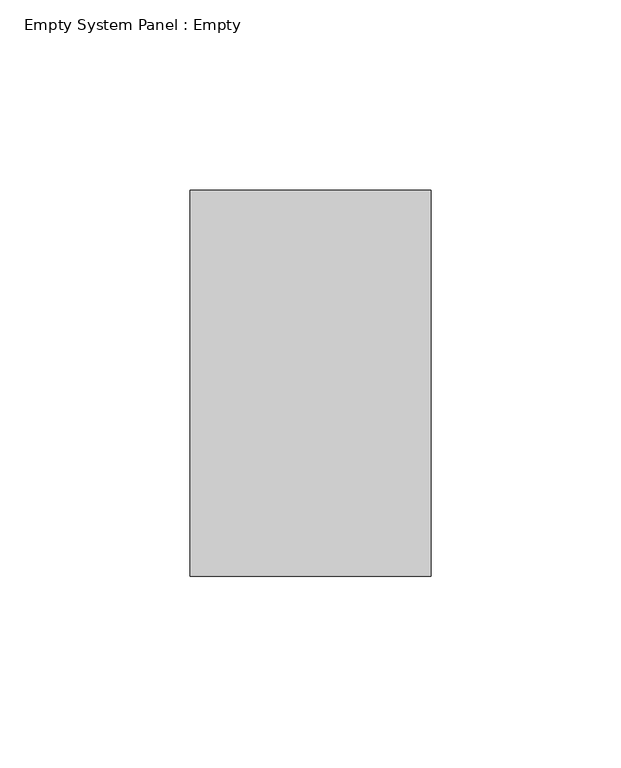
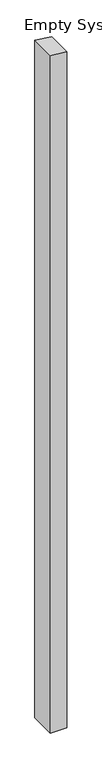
"""IFC4 building model written with IfcOpenShell, lengths in millimetres: plate geometry, Empty System Panel : Empty."""

import ifcopenshell
import ifcopenshell.guid

model = None  # the IFC model being written
_history = None  # IfcOwnerHistory: only IFC2X3 demands one
_inside = {}  # id of a spatial element -> (the spatial element, [elements in it])
_under = {}  # id of a project, library or spatial element -> (it, [spatial elements below it])
_declared = {}  # id of a project -> (the project, [libraries it declares])
_typed = {}  # id of a type object -> (the type object, [elements of that type])
_made_of = {}  # id of a material, layer set ... -> (it, [elements and type objects made of it])


def new_model(schema):
    """Start an empty IFC model of exactly this schema.

    Asked for "IFC4X3", IfcOpenShell would pick the latest addendum, in which some entities
    have other attributes; the version numbers below select the first issue.
    IFC2X3 requires an IfcOwnerHistory on every rooted entity: one is made here for all.
    """
    global model, _history
    if schema == "IFC4X3":
        model = ifcopenshell.file(schema_version=(4, 3, 0, 0))
    else:
        model = ifcopenshell.file(schema=schema)
    _inside.clear()
    _under.clear()
    _declared.clear()
    _typed.clear()
    _made_of.clear()
    _history = None
    if model.schema == "IFC2X3":
        org = make("IfcOrganization", Name="unknown")
        user = make(
            "IfcPersonAndOrganization",
            ThePerson=make("IfcPerson", FamilyName="unknown"),
            TheOrganization=org,
        )
        app = make(
            "IfcApplication",
            ApplicationDeveloper=org,
            Version="unknown",
            ApplicationFullName="unknown",
            ApplicationIdentifier="unknown",
        )
        _history = make(
            "IfcOwnerHistory",
            OwningUser=user,
            OwningApplication=app,
            ChangeAction="ADDED",
            CreationDate=0,
        )
    return model


def make(cls, **values):
    """One entity of the class cls with the attributes given. An attribute that is None is left unset."""
    return model.create_entity(
        cls, **{name: value for name, value in values.items() if value is not None}
    )


def rooted(cls, **values):
    """An entity with a GlobalId (a new one), such as an element, a storey or a relation."""
    return make(cls, GlobalId=ifcopenshell.guid.new(), OwnerHistory=_history, **values)


def si_unit(unit_type, name, prefix=None):
    """IfcSIUnit, for example si_unit("LENGTHUNIT", "METRE", prefix="MILLI")."""
    return make("IfcSIUnit", UnitType=unit_type, Prefix=prefix, Name=name)


def assignment(units):
    """IfcUnitAssignment: the units of a project."""
    return None if units is None else make("IfcUnitAssignment", Units=units)


def point(xyz):
    """IfcCartesianPoint."""
    return None if xyz is None else make("IfcCartesianPoint", Coordinates=xyz)


def direction(xyz):
    """IfcDirection."""
    return None if xyz is None else make("IfcDirection", DirectionRatios=xyz)


def frame(location, z_axis=None, x_axis=None):
    """IfcAxis2Placement3D, a coordinate frame: its origin and axes. An axis left out is left unset."""
    return make(
        "IfcAxis2Placement3D",
        Location=point(location),
        Axis=direction(z_axis),
        RefDirection=direction(x_axis),
    )


def origin():
    """The frame at (0, 0, 0) with its axes left unset."""
    return frame((0.0, 0.0, 0.0))


def place(relative_to, where):
    """IfcLocalPlacement: puts the frame where relative to a parent placement (None: the world)."""
    return make(
        "IfcLocalPlacement", PlacementRelTo=relative_to, RelativePlacement=where
    )


def context(
    kind, dimensions, precision=None, world=None, true_north=None, identifier=None
):
    """IfcGeometricRepresentationContext, for example the 3D "Model" context."""
    return make(
        "IfcGeometricRepresentationContext",
        ContextIdentifier=identifier,
        ContextType=kind,
        CoordinateSpaceDimension=dimensions,
        Precision=precision,
        WorldCoordinateSystem=world,
        TrueNorth=true_north,
    )


def project(units=None, contexts=None):
    """IfcProject with its units and contexts."""
    return rooted(
        "IfcProject",
        Name="project",
        RepresentationContexts=contexts,
        UnitsInContext=assignment(units),
    )


def spatial(cls, under=None, at=None, **own):
    """A site, building, storey or space (cls), placed at a placement, below another one or the project."""
    s = rooted(cls, ObjectPlacement=at, **own)
    if under is not None:
        _under.setdefault(under.id(), (under, []))[1].append(s)
    return s


def polyline(points):
    """IfcPolyline through the points."""
    return make("IfcPolyline", Points=[point(p) for p in points])


def outline(outer, holes=None, kind="AREA"):
    """IfcArbitraryClosedProfileDef: a profile drawn as a closed curve; with holes, ...WithVoids."""
    if holes is None:
        return make("IfcArbitraryClosedProfileDef", ProfileType=kind, OuterCurve=outer)
    return make(
        "IfcArbitraryProfileDefWithVoids",
        ProfileType=kind,
        OuterCurve=outer,
        InnerCurves=holes,
    )


def extrude(swept, where, along, depth):
    """IfcExtrudedAreaSolid: the profile swept, set in the frame where, extruded along a direction by depth."""
    return make(
        "IfcExtrudedAreaSolid",
        SweptArea=swept,
        Position=where,
        ExtrudedDirection=direction(along),
        Depth=depth,
    )


def shape(context_of_items, identifier, shape_type, items):
    """IfcShapeRepresentation: the items that make up one representation, for example the "Body"."""
    return make(
        "IfcShapeRepresentation",
        ContextOfItems=context_of_items,
        RepresentationIdentifier=identifier,
        RepresentationType=shape_type,
        Items=items,
    )


def source(mapping_origin, context_of_items, identifier, shape_type, items):
    """IfcRepresentationMap: a shape defined once, which mapped items show again and again."""
    return make(
        "IfcRepresentationMap",
        MappingOrigin=mapping_origin,
        MappedRepresentation=shape(context_of_items, identifier, shape_type, items),
    )


def transform(
    local_origin,
    x_axis=None,
    y_axis=None,
    z_axis=None,
    scale=None,
    scale2=None,
    scale3=None,
    uniform=True,
):
    """IfcCartesianTransformationOperator3D, or its non-uniform kind. x_axis, y_axis, z_axis: its Axis1, 2, 3."""
    if uniform:
        return make(
            "IfcCartesianTransformationOperator3D",
            Axis1=direction(x_axis),
            Axis2=direction(y_axis),
            LocalOrigin=point(local_origin),
            Scale=scale,
            Axis3=direction(z_axis),
        )
    return make(
        "IfcCartesianTransformationOperator3DnonUniform",
        Axis1=direction(x_axis),
        Axis2=direction(y_axis),
        LocalOrigin=point(local_origin),
        Scale=scale,
        Axis3=direction(z_axis),
        Scale2=scale2,
        Scale3=scale3,
    )


def mapped(mapping_source, mapping_target):
    """IfcMappedItem: shows the shape of a source again, moved by a transform."""
    return make(
        "IfcMappedItem", MappingSource=mapping_source, MappingTarget=mapping_target
    )


def made_of(thing, what):
    """Note that an element or type object is made of a material, layer set ...; save() writes the relation."""
    if what is not None:
        _made_of.setdefault(what.id(), (what, []))[1].append(thing)
    return thing


def element(
    cls,
    number,
    at=None,
    inside=None,
    cuts=None,
    type_object=None,
    material=None,
    context=None,
    identifier="Body",
    shape_type=None,
    held_by="IfcProductDefinitionShape",
    body=None,
    shapes=None,
    **own,
):
    """One element of the class cls, such as IfcWall. Its Tag is "e" and its number.

    at: its placement. inside: the storey or other place that contains it. cuts: it is an
    opening in that element (IfcRelVoidsElement). A single representation is given by context,
    identifier, shape_type and body (its items); several are given by shapes. held_by: the class
    of the entity that holds the representations. save() writes the other relations.
    """
    e = rooted(cls, Tag="e%d" % number, ObjectPlacement=at, **own)
    if body is not None:
        shapes = [shape(context, identifier, shape_type, body)]
    if shapes is not None:
        e.Representation = make(held_by, Representations=shapes)
    if inside is not None:
        _inside.setdefault(inside.id(), (inside, []))[1].append(e)
    if cuts is not None:
        rooted(
            "IfcRelVoidsElement", RelatingBuildingElement=cuts, RelatedOpeningElement=e
        )
    if type_object is not None:
        _typed.setdefault(type_object.id(), (type_object, []))[1].append(e)
    return made_of(e, material)


def aggregate(whole, parts):
    """IfcRelAggregates: a whole, such as a stair, and the parts it consists of."""
    return rooted("IfcRelAggregates", RelatingObject=whole, RelatedObjects=parts)


def save(model, path):
    """Write the relations noted so far, then the file.

    IfcRelAggregates (storeys below a building ...), IfcRelContainedInSpatialStructure (elements
    in a storey), IfcRelDefinesByType, IfcRelAssociatesMaterial and IfcRelDeclares: one each for
    every whole, place, type object, material and project.
    """
    for whole, parts in _under.values():
        aggregate(whole, parts)
    for where, things in _inside.values():
        rooted(
            "IfcRelContainedInSpatialStructure",
            RelatedElements=things,
            RelatingStructure=where,
        )
    for kind, things in _typed.values():
        rooted("IfcRelDefinesByType", RelatedObjects=things, RelatingType=kind)
    for what, things in _made_of.values():
        rooted("IfcRelAssociatesMaterial", RelatedObjects=things, RelatingMaterial=what)
    for by, libraries in _declared.values():
        rooted("IfcRelDeclares", RelatingContext=by, RelatedDefinitions=libraries)
    model.write(path)


def empty_system_panel_empty_5a182ecb(model_context):
    return source(origin(), model_context, "Body", "SweptSolid", [
        extrude(outline(polyline([(0.0, -31.75), (0.0, 31.75), (2732.8338591, 31.75), (2739.9362182, -31.75), (0.0, -31.75)])), frame((0.0, -50.8, 0.0), z_axis=(0.0, 1.0, 0.0), x_axis=(0.0, 0.0, 1.0)), (0.0, 0.0, 1.0), 101.6),
    ])


if __name__ == "__main__":
    model = new_model("IFC4")
    model_context = context("Model", 3, world=origin())
    ifc_project = project(units=[si_unit("LENGTHUNIT", "METRE", prefix="MILLI")], contexts=[model_context])
    site = spatial("IfcSite", under=ifc_project)
    building = spatial("IfcBuilding", under=site)
    placement = place(None, origin())
    empty_system_panel_empty_shape = empty_system_panel_empty_5a182ecb(model_context)
    element("IfcPlate", 1, ObjectType="Empty System Panel : Empty", at=placement, inside=building, context=model_context, shape_type="MappedRepresentation", body=[
        mapped(empty_system_panel_empty_shape, transform((0.0, 0.0, 0.0), x_axis=(1.0, 0.0, 0.0), y_axis=(0.0, 1.0, 0.0), z_axis=(0.0, 0.0, 1.0))),
    ])
    save(model, "model.ifc")
